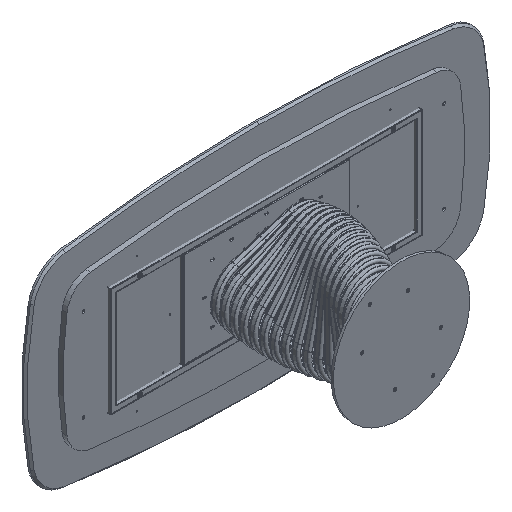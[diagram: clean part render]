
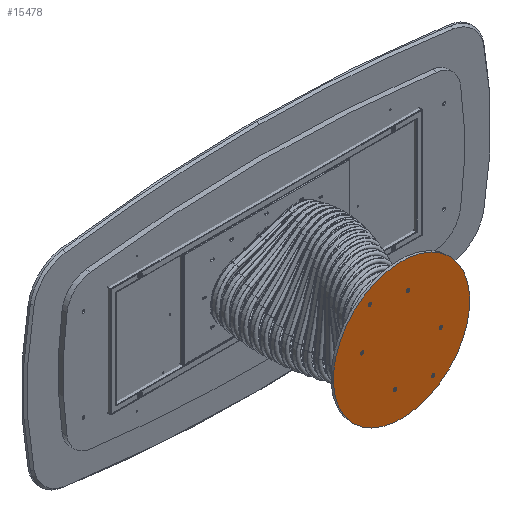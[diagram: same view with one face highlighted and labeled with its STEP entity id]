
A CAD part, isometric view. The second image highlights one B-rep face of the part: STEP entity #15478.
In plain terms, the highlighted planar face has unit normal (0, -1, 0).
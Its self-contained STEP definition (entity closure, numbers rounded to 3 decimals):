
#226 = ORIENTED_EDGE ( 'NONE', *, *, #20087, .F. ) ;
#288 = VERTEX_POINT ( 'NONE', #14657 ) ;
#320 = CARTESIAN_POINT ( 'NONE',  ( -150., 0., -133.85 ) ) ;
#396 = CIRCLE ( 'NONE', #14819, 8.65 ) ;
#471 = CARTESIAN_POINT ( 'NONE',  ( -150., 0., 142.5 ) ) ;
#477 = CIRCLE ( 'NONE', #20091, 8.65 ) ;
#494 = PLANE ( 'NONE',  #18916 ) ;
#716 = CARTESIAN_POINT ( 'NONE',  ( 290., 0., 0. ) ) ;
#857 = AXIS2_PLACEMENT_3D ( 'NONE', #471, #19648, #4225 ) ;
#1509 = AXIS2_PLACEMENT_3D ( 'NONE', #8890, #24318, #7144 ) ;
#1697 = DIRECTION ( 'NONE',  ( 0., 0., -1. ) ) ;
#1752 = EDGE_CURVE ( 'NONE', #4611, #15072, #12068, .T. ) ;
#1971 = CIRCLE ( 'NONE', #14004, 8.65 ) ;
#2159 = EDGE_CURVE ( 'NONE', #7281, #17826, #477, .T. ) ;
#2357 = CARTESIAN_POINT ( 'NONE',  ( -150., 0., 133.85 ) ) ;
#2528 = CARTESIAN_POINT ( 'NONE',  ( -150., 0., -142.5 ) ) ;
#2535 = CARTESIAN_POINT ( 'NONE',  ( 0., 0., -350. ) ) ;
#3284 = CIRCLE ( 'NONE', #9275, 8.65 ) ;
#3620 = DIRECTION ( 'NONE',  ( 0., -1., 0. ) ) ;
#3742 = CARTESIAN_POINT ( 'NONE',  ( 290., 0., 0. ) ) ;
#4071 = DIRECTION ( 'NONE',  ( 0., 0., -1. ) ) ;
#4225 = DIRECTION ( 'NONE',  ( 0., 0., -1. ) ) ;
#4247 = CIRCLE ( 'NONE', #9067, 350. ) ;
#4279 = EDGE_CURVE ( 'NONE', #5804, #16438, #10961, .T. ) ;
#4291 = DIRECTION ( 'NONE',  ( 0., 0., -1. ) ) ;
#4307 = ORIENTED_EDGE ( 'NONE', *, *, #13813, .F. ) ;
#4469 = EDGE_CURVE ( 'NONE', #15072, #4611, #12205, .T. ) ;
#4611 = VERTEX_POINT ( 'NONE', #2357 ) ;
#4790 = CARTESIAN_POINT ( 'NONE',  ( -290., 0., 0. ) ) ;
#4897 = VERTEX_POINT ( 'NONE', #21956 ) ;
#5123 = CIRCLE ( 'NONE', #1509, 350. ) ;
#5386 = CARTESIAN_POINT ( 'NONE',  ( -150., 0., 142.5 ) ) ;
#5433 = CARTESIAN_POINT ( 'NONE',  ( -150., 0., -151.15 ) ) ;
#5804 = VERTEX_POINT ( 'NONE', #14638 ) ;
#5887 = FACE_BOUND ( 'NONE', #24398, .T. ) ;
#6052 = VERTEX_POINT ( 'NONE', #8329 ) ;
#6068 = ORIENTED_EDGE ( 'NONE', *, *, #4279, .F. ) ;
#6154 = DIRECTION ( 'NONE',  ( 0., 0., -1. ) ) ;
#6350 = EDGE_LOOP ( 'NONE', ( #11918, #11558 ) ) ;
#6618 = DIRECTION ( 'NONE',  ( 0., -1., 0. ) ) ;
#6747 = DIRECTION ( 'NONE',  ( 0., 0., -1. ) ) ;
#6764 = EDGE_CURVE ( 'NONE', #288, #7299, #18609, .T. ) ;
#7144 = DIRECTION ( 'NONE',  ( 0., 0., 1. ) ) ;
#7281 = VERTEX_POINT ( 'NONE', #5433 ) ;
#7299 = VERTEX_POINT ( 'NONE', #23103 ) ;
#7861 = ORIENTED_EDGE ( 'NONE', *, *, #16312, .F. ) ;
#7898 = FACE_BOUND ( 'NONE', #19714, .T. ) ;
#7984 = DIRECTION ( 'NONE',  ( 0., -1., 0. ) ) ;
#8027 = DIRECTION ( 'NONE',  ( 0., -1., 0. ) ) ;
#8112 = DIRECTION ( 'NONE',  ( 0., 0., -1. ) ) ;
#8144 = CARTESIAN_POINT ( 'NONE',  ( 0., 0., 0. ) ) ;
#8329 = CARTESIAN_POINT ( 'NONE',  ( -290., 0., 8.65 ) ) ;
#8553 = AXIS2_PLACEMENT_3D ( 'NONE', #23453, #8027, #6154 ) ;
#8890 = CARTESIAN_POINT ( 'NONE',  ( 0., 0., 0. ) ) ;
#8927 = EDGE_LOOP ( 'NONE', ( #16407, #11508 ) ) ;
#9067 = AXIS2_PLACEMENT_3D ( 'NONE', #23550, #16177, #19537 ) ;
#9275 = AXIS2_PLACEMENT_3D ( 'NONE', #4790, #12443, #18805 ) ;
#9444 = AXIS2_PLACEMENT_3D ( 'NONE', #2528, #15946, #12193 ) ;
#9638 = FACE_BOUND ( 'NONE', #6350, .T. ) ;
#9663 = VERTEX_POINT ( 'NONE', #17095 ) ;
#9833 = DIRECTION ( 'NONE',  ( 0., -1., 0. ) ) ;
#10813 = CARTESIAN_POINT ( 'NONE',  ( 0., 0., 350. ) ) ;
#10961 = CIRCLE ( 'NONE', #8553, 8.65 ) ;
#11200 = EDGE_CURVE ( 'NONE', #16438, #5804, #396, .T. ) ;
#11508 = ORIENTED_EDGE ( 'NONE', *, *, #17355, .F. ) ;
#11558 = ORIENTED_EDGE ( 'NONE', *, *, #4469, .F. ) ;
#11700 = AXIS2_PLACEMENT_3D ( 'NONE', #3742, #7984, #17646 ) ;
#11748 = ORIENTED_EDGE ( 'NONE', *, *, #2159, .F. ) ;
#11754 = AXIS2_PLACEMENT_3D ( 'NONE', #13841, #21456, #4291 ) ;
#11787 = FACE_BOUND ( 'NONE', #14881, .T. ) ;
#11918 = ORIENTED_EDGE ( 'NONE', *, *, #1752, .F. ) ;
#12068 = CIRCLE ( 'NONE', #857, 8.65 ) ;
#12193 = DIRECTION ( 'NONE',  ( 0., 0., -1. ) ) ;
#12205 = CIRCLE ( 'NONE', #15785, 8.65 ) ;
#12443 = DIRECTION ( 'NONE',  ( 0., -1., 0. ) ) ;
#12672 = CIRCLE ( 'NONE', #9444, 8.65 ) ;
#13061 = DIRECTION ( 'NONE',  ( 0., -1., 0. ) ) ;
#13412 = ORIENTED_EDGE ( 'NONE', *, *, #21782, .F. ) ;
#13555 = ORIENTED_EDGE ( 'NONE', *, *, #6764, .F. ) ;
#13730 = CIRCLE ( 'NONE', #16939, 8.65 ) ;
#13769 = VERTEX_POINT ( 'NONE', #2535 ) ;
#13813 = EDGE_CURVE ( 'NONE', #6052, #9663, #3284, .T. ) ;
#13841 = CARTESIAN_POINT ( 'NONE',  ( 150., 0., -142.5 ) ) ;
#14004 = AXIS2_PLACEMENT_3D ( 'NONE', #19897, #14392, #6747 ) ;
#14092 = EDGE_LOOP ( 'NONE', ( #21001, #13412 ) ) ;
#14392 = DIRECTION ( 'NONE',  ( 0., -1., 0. ) ) ;
#14638 = CARTESIAN_POINT ( 'NONE',  ( 150., 0., 133.85 ) ) ;
#14657 = CARTESIAN_POINT ( 'NONE',  ( 290., 0., -8.65 ) ) ;
#14819 = AXIS2_PLACEMENT_3D ( 'NONE', #24457, #13061, #1697 ) ;
#14881 = EDGE_LOOP ( 'NONE', ( #11748, #226 ) ) ;
#15072 = VERTEX_POINT ( 'NONE', #17966 ) ;
#15478 = ADVANCED_FACE ( 'NONE', ( #5887, #11787, #21542, #7898, #23315, #9638, #17680 ), #494, .F. ) ;
#15489 = DIRECTION ( 'NONE',  ( 0., 0., -1. ) ) ;
#15785 = AXIS2_PLACEMENT_3D ( 'NONE', #5386, #3620, #16937 ) ;
#15882 = EDGE_CURVE ( 'NONE', #7299, #288, #22515, .T. ) ;
#15946 = DIRECTION ( 'NONE',  ( 0., -1., 0. ) ) ;
#16066 = ORIENTED_EDGE ( 'NONE', *, *, #15882, .F. ) ;
#16177 = DIRECTION ( 'NONE',  ( 0., 1., 0. ) ) ;
#16312 = EDGE_CURVE ( 'NONE', #9663, #6052, #13730, .T. ) ;
#16407 = ORIENTED_EDGE ( 'NONE', *, *, #17048, .F. ) ;
#16438 = VERTEX_POINT ( 'NONE', #19128 ) ;
#16937 = DIRECTION ( 'NONE',  ( 0., 0., -1. ) ) ;
#16939 = AXIS2_PLACEMENT_3D ( 'NONE', #23250, #9833, #15489 ) ;
#17048 = EDGE_CURVE ( 'NONE', #22574, #4897, #21749, .T. ) ;
#17095 = CARTESIAN_POINT ( 'NONE',  ( -290., 0., -8.65 ) ) ;
#17355 = EDGE_CURVE ( 'NONE', #4897, #22574, #1971, .T. ) ;
#17621 = DIRECTION ( 'NONE',  ( 0., -1., 0. ) ) ;
#17646 = DIRECTION ( 'NONE',  ( 0., 0., -1. ) ) ;
#17653 = ORIENTED_EDGE ( 'NONE', *, *, #11200, .F. ) ;
#17680 = FACE_OUTER_BOUND ( 'NONE', #14092, .T. ) ;
#17826 = VERTEX_POINT ( 'NONE', #320 ) ;
#17884 = CARTESIAN_POINT ( 'NONE',  ( -150., 0., -142.5 ) ) ;
#17966 = CARTESIAN_POINT ( 'NONE',  ( -150., 0., 151.15 ) ) ;
#18581 = VERTEX_POINT ( 'NONE', #10813 ) ;
#18609 = CIRCLE ( 'NONE', #23823, 8.65 ) ;
#18805 = DIRECTION ( 'NONE',  ( 0., 0., -1. ) ) ;
#18916 = AXIS2_PLACEMENT_3D ( 'NONE', #8144, #19305, #23439 ) ;
#19128 = CARTESIAN_POINT ( 'NONE',  ( 150., 0., 151.15 ) ) ;
#19305 = DIRECTION ( 'NONE',  ( 0., 1., 0. ) ) ;
#19537 = DIRECTION ( 'NONE',  ( 0., 0., 1. ) ) ;
#19648 = DIRECTION ( 'NONE',  ( 0., -1., 0. ) ) ;
#19714 = EDGE_LOOP ( 'NONE', ( #13555, #16066 ) ) ;
#19897 = CARTESIAN_POINT ( 'NONE',  ( 150., 0., -142.5 ) ) ;
#20087 = EDGE_CURVE ( 'NONE', #17826, #7281, #12672, .T. ) ;
#20091 = AXIS2_PLACEMENT_3D ( 'NONE', #17884, #17621, #4071 ) ;
#20614 = EDGE_CURVE ( 'NONE', #13769, #18581, #4247, .T. ) ;
#21001 = ORIENTED_EDGE ( 'NONE', *, *, #20614, .F. ) ;
#21456 = DIRECTION ( 'NONE',  ( 0., -1., 0. ) ) ;
#21542 = FACE_BOUND ( 'NONE', #8927, .T. ) ;
#21749 = CIRCLE ( 'NONE', #11754, 8.65 ) ;
#21782 = EDGE_CURVE ( 'NONE', #18581, #13769, #5123, .T. ) ;
#21956 = CARTESIAN_POINT ( 'NONE',  ( 150., 0., -133.85 ) ) ;
#22202 = EDGE_LOOP ( 'NONE', ( #6068, #17653 ) ) ;
#22515 = CIRCLE ( 'NONE', #11700, 8.65 ) ;
#22574 = VERTEX_POINT ( 'NONE', #24263 ) ;
#23103 = CARTESIAN_POINT ( 'NONE',  ( 290., 0., 8.65 ) ) ;
#23250 = CARTESIAN_POINT ( 'NONE',  ( -290., 0., 0. ) ) ;
#23315 = FACE_BOUND ( 'NONE', #22202, .T. ) ;
#23439 = DIRECTION ( 'NONE',  ( 0., 0., 1. ) ) ;
#23453 = CARTESIAN_POINT ( 'NONE',  ( 150., 0., 142.5 ) ) ;
#23550 = CARTESIAN_POINT ( 'NONE',  ( 0., 0., 0. ) ) ;
#23823 = AXIS2_PLACEMENT_3D ( 'NONE', #716, #6618, #8112 ) ;
#24263 = CARTESIAN_POINT ( 'NONE',  ( 150., 0., -151.15 ) ) ;
#24318 = DIRECTION ( 'NONE',  ( 0., 1., 0. ) ) ;
#24398 = EDGE_LOOP ( 'NONE', ( #7861, #4307 ) ) ;
#24457 = CARTESIAN_POINT ( 'NONE',  ( 150., 0., 142.5 ) ) ;
